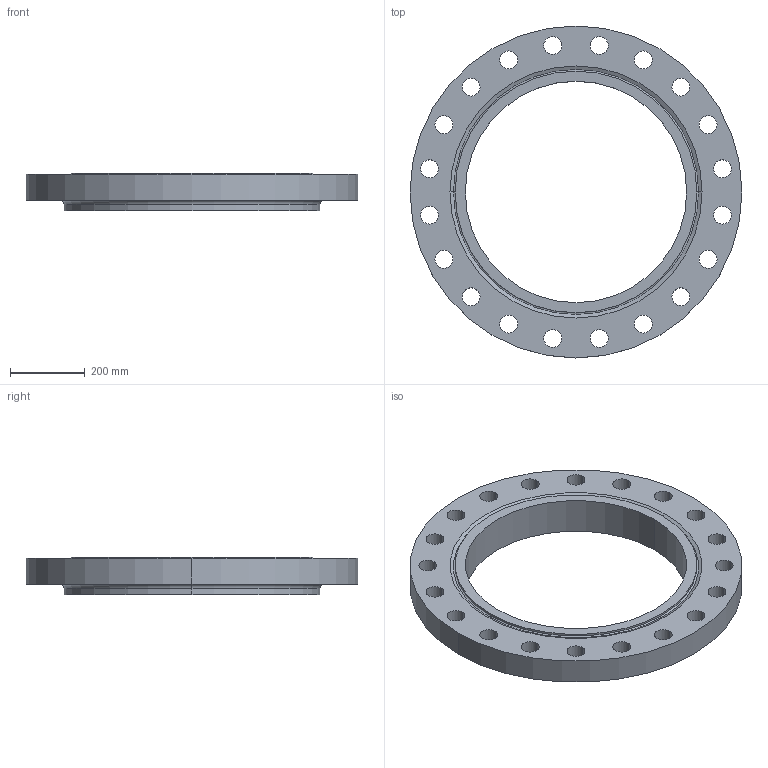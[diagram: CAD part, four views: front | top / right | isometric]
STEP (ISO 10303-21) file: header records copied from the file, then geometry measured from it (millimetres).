
FILE_DESCRIPTION (( 'STEP AP214' ), '1' );
FILE_NAME ('PN40 DN600 Type 13 - Type H Face.STEP', '2018-12-28T22:56:54', ( '' ), ( '' ), 'SwSTEP 2.0', 'SolidWorks 2019', '' );
FILE_SCHEMA (( 'AUTOMOTIVE_DESIGN' ));
Length unit declared in the file: millimetre
Products named in the file (1): PN40 DN600 Type 13 - Type H Face
Bounding box: 890 x 890 x 100 mm (x, y, z)
Volume: 24079214.4 mm3; surface area: 1271283.6 mm2
Topology: 1 solids, 1 shells, 58 faces, 156 edges, 102 vertices
Faces by surface type: cylinder 48, torus 4, plane 4, cone 2
Entity records: 1996 total; most frequent: DIRECTION 380, CARTESIAN_POINT 317, ORIENTED_EDGE 312, AXIS2_PLACEMENT_3D 165, EDGE_CURVE 156, CIRCLE 106, VERTEX_POINT 102, EDGE_LOOP 102
